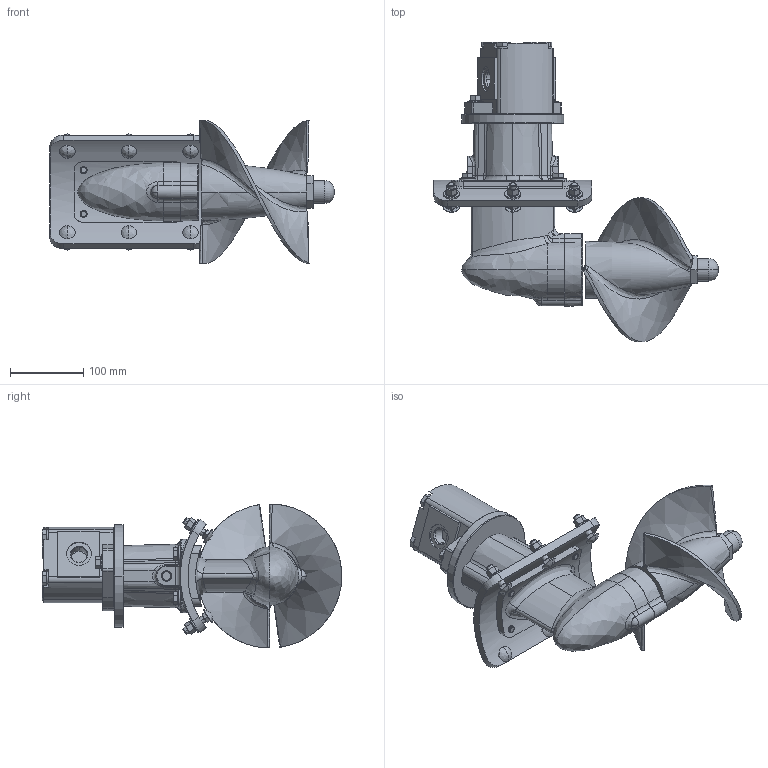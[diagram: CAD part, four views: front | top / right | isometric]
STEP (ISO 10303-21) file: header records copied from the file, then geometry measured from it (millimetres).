
FILE_DESCRIPTION (( 'STEP AP214' ), '1' );
FILE_NAME ('KP08X-H-TH_revA.STEP', '2020-09-25T19:19:21', ( '' ), ( '' ), 'SwSTEP 2.0', 'SolidWorks 2019', '' );
FILE_SCHEMA (( 'AUTOMOTIVE_DESIGN' ));
Length unit declared in the file: inch
Products named in the file (2): KP08X-H-TH_revA
Bounding box: 388.54 x 409.48 x 196.85 mm (x, y, z)
Volume: 3652268.7 mm3; surface area: 355653.2 mm2
Topology: 8 solids, 8 shells, 1091 faces, 2658 edges, 1599 vertices
Faces by surface type: plane 422, cylinder 274, cone 193, bspline 163, torus 33, sphere 6
Entity records: 72313 total; most frequent: CARTESIAN_POINT 48599, ORIENTED_EDGE 5252, DIRECTION 4557, EDGE_CURVE 2626, AXIS2_PLACEMENT_3D 1810, VERTEX_POINT 1599, EDGE_LOOP 1151, FACE_OUTER_BOUND 1091
